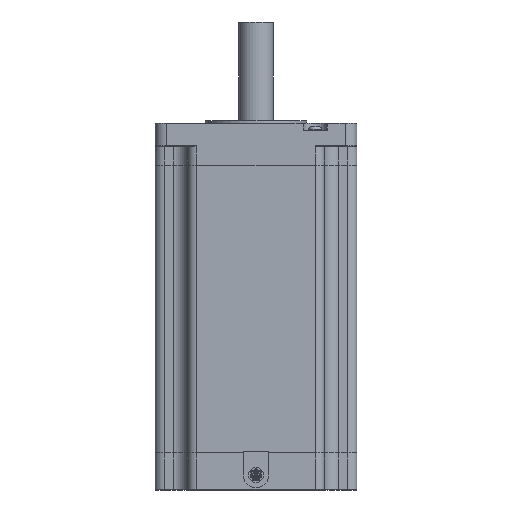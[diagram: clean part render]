
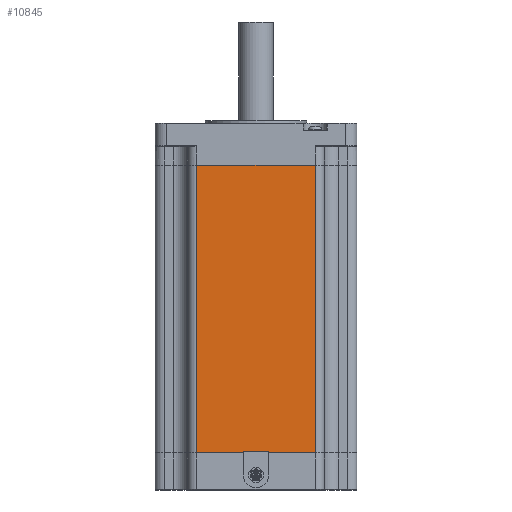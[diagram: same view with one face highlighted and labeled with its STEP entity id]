
A CAD part, front view. The second image highlights one B-rep face of the part: STEP entity #10845.
In plain terms, the highlighted planar face has unit normal (0, -1, 0).
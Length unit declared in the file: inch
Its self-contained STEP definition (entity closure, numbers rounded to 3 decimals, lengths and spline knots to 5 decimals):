
#273 = VERTEX_POINT ( 'NONE', #17118 ) ;
#489 = EDGE_CURVE ( 'NONE', #507, #273, #11521, .T. ) ;
#507 = VERTEX_POINT ( 'NONE', #11614 ) ;
#2609 = CARTESIAN_POINT ( 'NONE',  ( 1.2775, -2.1765, -7.113 ) ) ;
#2687 = LINE ( 'NONE', #2689, #2698 ) ;
#2689 = CARTESIAN_POINT ( 'NONE',  ( 1.2775, -2.1765, -7.113 ) ) ;
#2698 = VECTOR ( 'NONE', #2738, 39.37008 ) ;
#2701 = DIRECTION ( 'NONE',  ( 0., 0., 1. ) ) ;
#2702 = VECTOR ( 'NONE', #2701, 39.37008 ) ;
#2703 = CARTESIAN_POINT ( 'NONE',  ( 1.2775, -2.1765, -7.113 ) ) ;
#2704 = LINE ( 'NONE', #2703, #2702 ) ;
#2738 = DIRECTION ( 'NONE',  ( -1., 0., 0. ) ) ;
#2871 = CARTESIAN_POINT ( 'NONE',  ( -1.2775, -2.1765, -7.113 ) ) ;
#2900 = FACE_OUTER_BOUND ( 'NONE', #10097, .T. ) ;
#2923 = DIRECTION ( 'NONE',  ( 0., 0., 1. ) ) ;
#2924 = VECTOR ( 'NONE', #2923, 39.37008 ) ;
#2925 = CARTESIAN_POINT ( 'NONE',  ( -1.2775, -2.1765, -7.113 ) ) ;
#2933 = LINE ( 'NONE', #2925, #2924 ) ;
#2934 = DIRECTION ( 'NONE',  ( -1., 0., 0. ) ) ;
#2935 = DIRECTION ( 'NONE',  ( 0., 1., 0. ) ) ;
#2936 = CARTESIAN_POINT ( 'NONE',  ( 1.2775, -2.1765, -7.113 ) ) ;
#2937 = AXIS2_PLACEMENT_3D ( 'NONE', #2936, #2935, #2934 ) ;
#2938 = PLANE ( 'NONE',  #2937 ) ;
#10097 = EDGE_LOOP ( 'NONE', ( #10794, #10792, #10829, #10830 ) ) ;
#10098 = VERTEX_POINT ( 'NONE', #2609 ) ;
#10785 = EDGE_CURVE ( 'NONE', #10098, #507, #2704, .T. ) ;
#10790 = EDGE_CURVE ( 'NONE', #10098, #10839, #2687, .T. ) ;
#10792 = ORIENTED_EDGE ( 'NONE', *, *, #10850, .F. ) ;
#10794 = ORIENTED_EDGE ( 'NONE', *, *, #489, .T. ) ;
#10829 = ORIENTED_EDGE ( 'NONE', *, *, #10790, .F. ) ;
#10830 = ORIENTED_EDGE ( 'NONE', *, *, #10785, .T. ) ;
#10839 = VERTEX_POINT ( 'NONE', #2871 ) ;
#10845 = ADVANCED_FACE ( 'NONE', ( #2900 ), #2938, .F. ) ;
#10850 = EDGE_CURVE ( 'NONE', #10839, #273, #2933, .T. ) ;
#11521 = LINE ( 'NONE', #11570, #11569 ) ;
#11568 = DIRECTION ( 'NONE',  ( -1., 0., 0. ) ) ;
#11569 = VECTOR ( 'NONE', #11568, 39.37008 ) ;
#11570 = CARTESIAN_POINT ( 'NONE',  ( 1.2775, -2.1765, -0.9 ) ) ;
#11614 = CARTESIAN_POINT ( 'NONE',  ( 1.2775, -2.1765, -0.9 ) ) ;
#17118 = CARTESIAN_POINT ( 'NONE',  ( -1.2775, -2.1765, -0.9 ) ) ;
